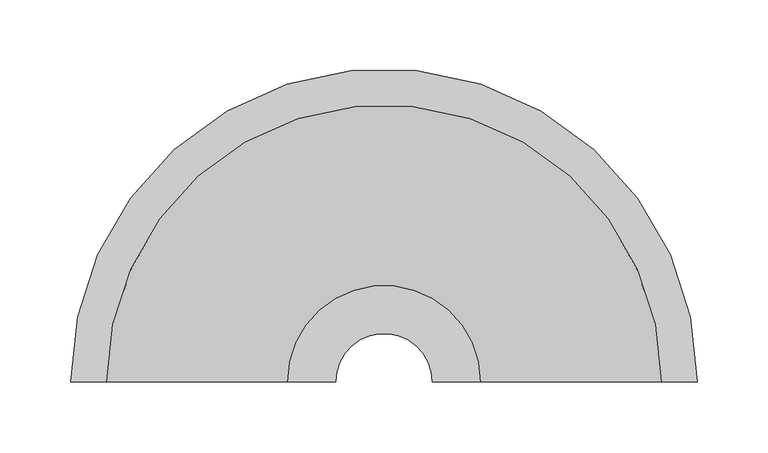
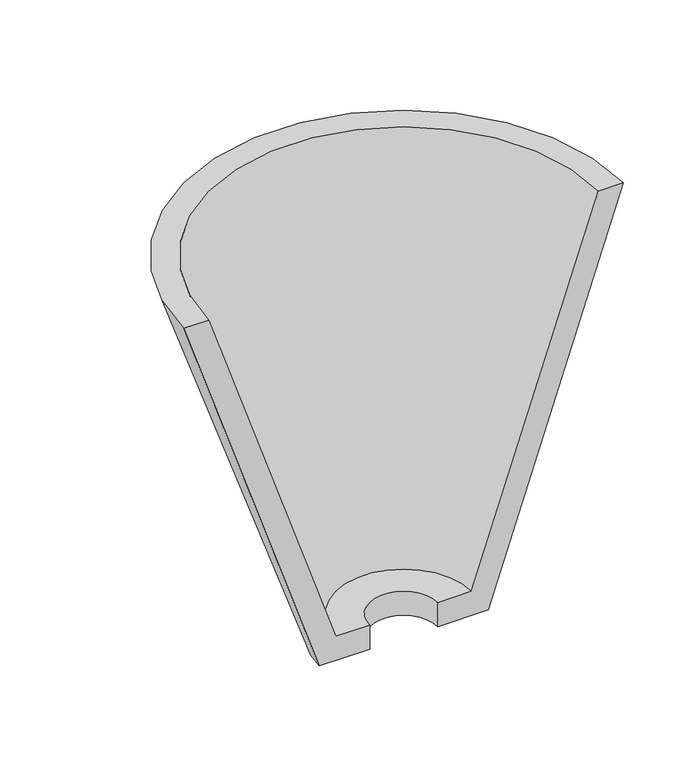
"""IFC4 building model written with IfcOpenShell, lengths in millimetres: light fixture geometry, M_Applique : 100 watt Incandescente."""

from ifc_helpers import new_model, si_unit, frame, origin, place, context, project, spatial, polyline, circle_curve, source, transform, mapped, element, save
from ifc_brep_helpers import plane_surface, revolved_surface, advanced_brep


def light_fixture_da5f3668(model_context):
    return source(origin(), model_context, "Body", "AdvancedBrep", [
        advanced_brep(
        [(-221.2056669, 100.0, 2103.2), (-85.0253975, 100.0, 1696.8), (-34.2253975, 100.0, 1696.8), (-34.2253975, 100.0, 1722.2), (-68.1366644, 100.0, 1722.2), (-195.8056669, 100.0, 2103.2), (221.2056669, 100.0, 2103.2), (195.8056669, 100.0, 2103.2), (68.1366644, 100.0, 1722.2), (34.2253975, 100.0, 1722.2), (34.2253975, 100.0, 1696.8), (85.0253975, 100.0, 1696.8)],
        [
            (0, 1),
            (1, 2),
            (2, 3),
            (3, 4),
            (4, 5),
            (5, 0),
            (6, 7),
            (7, 8),
            (8, 9),
            (9, 10),
            (10, 11),
            (11, 6),
            (11, 1, circle_curve(frame((0.0, 100.0, 1696.8), z_axis=(0.0, 0.0, 1.0), x_axis=(-1.0, 0.0, 0.0)), 85.0253975)),
            (0, 6, circle_curve(frame((0.0, 100.0, 2103.2), z_axis=(0.0, 0.0, -1.0), x_axis=(-1.0, 0.0, 0.0)), 221.2056669)),
            (10, 2, circle_curve(frame((0.0, 100.0, 1696.8), z_axis=(0.0, 0.0, 1.0), x_axis=(-1.0, 0.0, 0.0)), 34.2253975)),
            (9, 3, circle_curve(frame((0.0, 100.0, 1722.2), z_axis=(0.0, 0.0, 1.0), x_axis=(-1.0, 0.0, 0.0)), 34.2253975)),
            (8, 4, circle_curve(frame((0.0, 100.0, 1722.2), z_axis=(0.0, 0.0, 1.0), x_axis=(-1.0, 0.0, 0.0)), 68.1366644)),
            (7, 5, circle_curve(frame((0.0, 100.0, 2103.2), z_axis=(0.0, 0.0, 1.0), x_axis=(-1.0, 0.0, 0.0)), 195.8056669)),
        ],
        [
            plane_surface(frame((0.0, 100.0, 1936.774367), z_axis=(0.0, -1.0, 0.0), x_axis=(-1.0, 0.0, 0.0))),
            plane_surface(frame((0.0, 100.0, 1936.774367), z_axis=(0.0, -1.0, 0.0), x_axis=(1.0, 0.0, 0.0))),
            revolved_surface(polyline([(-221.2056669, 100.0, 2103.2), (-85.0253975, 100.0, 1696.8)]), (0.0, 100.0, 1936.774367), (0.0, 0.0, -1.0)),
            plane_surface(frame((0.0, 100.0, 1696.8), z_axis=(0.0, 0.0, -1.0), x_axis=(-1.0, 0.0, 0.0))),
            revolved_surface(polyline([(-34.2253975, 100.0, 1696.8), (-34.2253975, 100.0, 1722.2)]), (0.0, 100.0, 1936.774367), (0.0, 0.0, -1.0)),
            plane_surface(frame((0.0, 100.0, 1722.2), z_axis=(0.0, 0.0, 1.0), x_axis=(-1.0, 0.0, 0.0))),
            revolved_surface(polyline([(-68.1366644, 100.0, 1722.2), (-195.8056669, 100.0, 2103.2)]), (0.0, 100.0, 1936.774367), (0.0, 0.0, -1.0)),
            plane_surface(frame((0.0, 100.0, 2103.2), z_axis=(0.0, 0.0, 1.0), x_axis=(-1.0, 0.0, 0.0))),
        ],
        [
            (0, [[1, 2, 3, 4, 5, 6]]),
            (1, [[7, 8, 9, 10, 11, 12]]),
            (2, [[13, -1, 14, -12]]),
            (3, [[15, -2, -13, -11]]),
            (4, [[16, -3, -15, -10]]),
            (5, [[17, -4, -16, -9]]),
            (6, [[18, -5, -17, -8]]),
            (7, [[-14, -6, -18, -7]]),
        ],
    ),
    ])


if __name__ == "__main__":
    model = new_model("IFC4")
    model_context = context("Model", 3, world=origin())
    ifc_project = project(units=[si_unit("LENGTHUNIT", "METRE", prefix="MILLI")], contexts=[model_context])
    site = spatial("IfcSite", under=ifc_project)
    building = spatial("IfcBuilding", under=site)
    placement = place(None, origin())
    light_fixture_shape = light_fixture_da5f3668(model_context)
    element("IfcLightFixture", 1, ObjectType="M_Applique : 100 watt Incandescente", at=placement, inside=building, context=model_context, shape_type="MappedRepresentation", body=[
        mapped(light_fixture_shape, transform((0.0, 0.0, 0.0), x_axis=(1.0, 0.0, 0.0), y_axis=(0.0, 1.0, 0.0), z_axis=(0.0, 0.0, 1.0))),
    ])
    save(model, "model.ifc")
